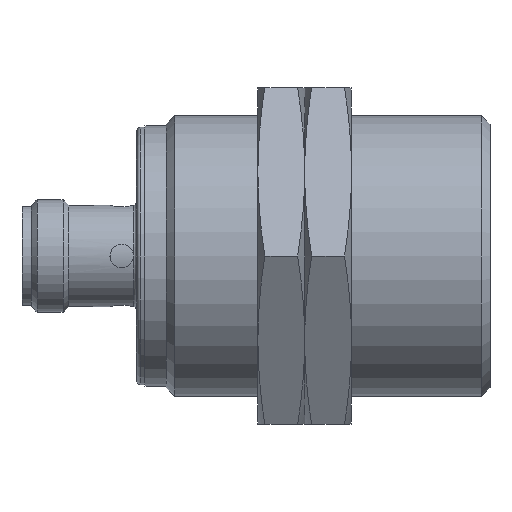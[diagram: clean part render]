
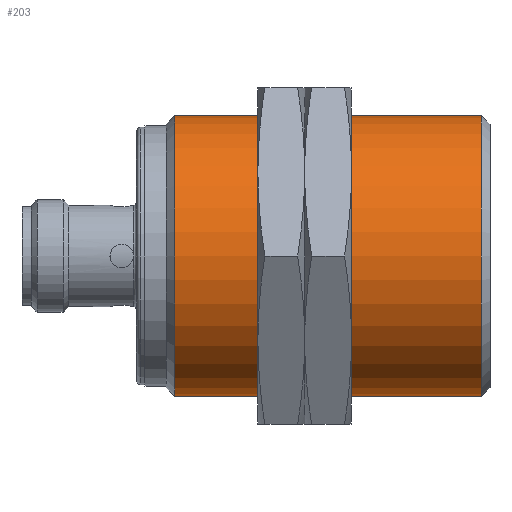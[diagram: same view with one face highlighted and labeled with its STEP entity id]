
A CAD part, front view. The second image highlights one B-rep face of the part: STEP entity #203.
In plain terms, the highlighted cylindrical face has radius 15 mm (diameter 30 mm), a full revolution.
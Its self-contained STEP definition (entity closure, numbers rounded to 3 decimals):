
#203 = ADVANCED_FACE( '', ( #306, #307 ), #308, .T. );
#306 = FACE_OUTER_BOUND( '', #467, .T. );
#307 = FACE_OUTER_BOUND( '', #468, .T. );
#308 = CYLINDRICAL_SURFACE( '', #469, 15. );
#467 = EDGE_LOOP( '', ( #695 ) );
#468 = EDGE_LOOP( '', ( #696 ) );
#469 = AXIS2_PLACEMENT_3D( '', #697, #698, #699 );
#695 = ORIENTED_EDGE( '', *, *, #989, .F. );
#696 = ORIENTED_EDGE( '', *, *, #990, .T. );
#697 = CARTESIAN_POINT( '', ( 50., 0., 0. ) );
#698 = DIRECTION( '', ( -1., 0., 0. ) );
#699 = DIRECTION( '', ( 0., 0., -1. ) );
#989 = EDGE_CURVE( '', #1116, #1116, #1117, .T. );
#990 = EDGE_CURVE( '', #1118, #1118, #1119, .T. );
#1116 = VERTEX_POINT( '', #1527 );
#1117 = CIRCLE( '', #1528, 15. );
#1118 = VERTEX_POINT( '', #1529 );
#1119 = CIRCLE( '', #1530, 15. );
#1527 = CARTESIAN_POINT( '', ( 49.08, 0., -15. ) );
#1528 = AXIS2_PLACEMENT_3D( '', #1906, #1907, #1908 );
#1529 = CARTESIAN_POINT( '', ( 16.32, 0., -15. ) );
#1530 = AXIS2_PLACEMENT_3D( '', #1909, #1910, #1911 );
#1906 = CARTESIAN_POINT( '', ( 49.08, 0., 0. ) );
#1907 = DIRECTION( '', ( 1., 0., 0. ) );
#1908 = DIRECTION( '', ( 0., 0., -1. ) );
#1909 = CARTESIAN_POINT( '', ( 16.32, 0., 0. ) );
#1910 = DIRECTION( '', ( 1., 0., 0. ) );
#1911 = DIRECTION( '', ( 0., 0., -1. ) );
